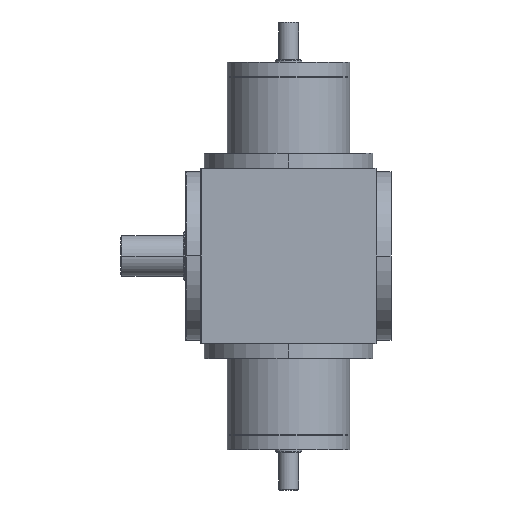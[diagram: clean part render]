
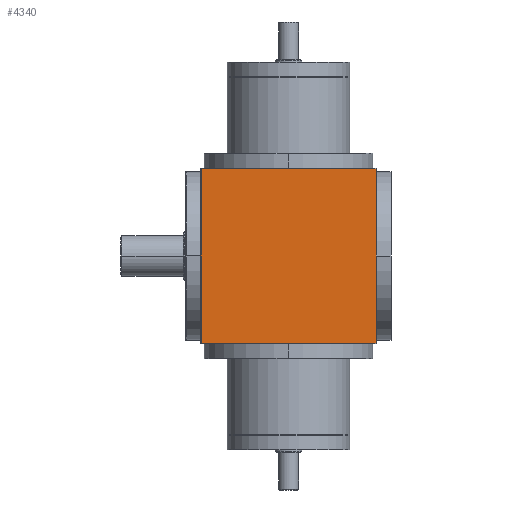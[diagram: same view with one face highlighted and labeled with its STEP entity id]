
A CAD part, front view. The second image highlights one B-rep face of the part: STEP entity #4340.
In plain terms, the highlighted planar face has unit normal (0, -1, 0).
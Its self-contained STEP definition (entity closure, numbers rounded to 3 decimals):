
#755 = AXIS2_PLACEMENT_3D ( 'NONE', #1649, #18967, #16978 ) ;
#1575 = CARTESIAN_POINT ( 'NONE',  ( -70., -70., 69.9 ) ) ;
#1649 = CARTESIAN_POINT ( 'NONE',  ( 70., -70., 70. ) ) ;
#2028 = ORIENTED_EDGE ( 'NONE', *, *, #4949, .T. ) ;
#2423 = LINE ( 'NONE', #3224, #20349 ) ;
#3224 = CARTESIAN_POINT ( 'NONE',  ( 70., -70., -69.9 ) ) ;
#3844 = EDGE_CURVE ( 'NONE', #18353, #23587, #16259, .T. ) ;
#4273 = VERTEX_POINT ( 'NONE', #19041 ) ;
#4340 = ADVANCED_FACE ( 'NONE', ( #13269 ), #9295, .F. ) ;
#4362 = EDGE_CURVE ( 'NONE', #24701, #4273, #20343, .T. ) ;
#4521 = ORIENTED_EDGE ( 'NONE', *, *, #3844, .T. ) ;
#4857 = VECTOR ( 'NONE', #18801, 1000. ) ;
#4949 = EDGE_CURVE ( 'NONE', #4273, #18353, #2423, .T. ) ;
#5102 = ORIENTED_EDGE ( 'NONE', *, *, #9157, .T. ) ;
#5232 = DIRECTION ( 'NONE',  ( 1., 0., 0. ) ) ;
#5720 = DIRECTION ( 'NONE',  ( 0., 0., 1. ) ) ;
#8158 = VECTOR ( 'NONE', #13336, 1000. ) ;
#9157 = EDGE_CURVE ( 'NONE', #23587, #24701, #22503, .T. ) ;
#9295 = PLANE ( 'NONE',  #755 ) ;
#11164 = VECTOR ( 'NONE', #5720, 1000. ) ;
#13200 = CARTESIAN_POINT ( 'NONE',  ( 69.9, -70., -69.9 ) ) ;
#13269 = FACE_OUTER_BOUND ( 'NONE', #16352, .T. ) ;
#13336 = DIRECTION ( 'NONE',  ( 0., 0., -1. ) ) ;
#14082 = CARTESIAN_POINT ( 'NONE',  ( -69.9, -70., 69.9 ) ) ;
#16259 = LINE ( 'NONE', #24646, #11164 ) ;
#16334 = CARTESIAN_POINT ( 'NONE',  ( 69.9, -70., 69.9 ) ) ;
#16352 = EDGE_LOOP ( 'NONE', ( #2028, #4521, #5102, #19711 ) ) ;
#16978 = DIRECTION ( 'NONE',  ( 0., 0., 1. ) ) ;
#18353 = VERTEX_POINT ( 'NONE', #13200 ) ;
#18801 = DIRECTION ( 'NONE',  ( -1., 0., 0. ) ) ;
#18967 = DIRECTION ( 'NONE',  ( 0., 1., 0. ) ) ;
#19041 = CARTESIAN_POINT ( 'NONE',  ( -69.9, -70., -69.9 ) ) ;
#19711 = ORIENTED_EDGE ( 'NONE', *, *, #4362, .T. ) ;
#20343 = LINE ( 'NONE', #22805, #8158 ) ;
#20349 = VECTOR ( 'NONE', #5232, 1000. ) ;
#22503 = LINE ( 'NONE', #1575, #4857 ) ;
#22805 = CARTESIAN_POINT ( 'NONE',  ( -69.9, -70., 70. ) ) ;
#23587 = VERTEX_POINT ( 'NONE', #16334 ) ;
#24646 = CARTESIAN_POINT ( 'NONE',  ( 69.9, -70., 70. ) ) ;
#24701 = VERTEX_POINT ( 'NONE', #14082 ) ;
